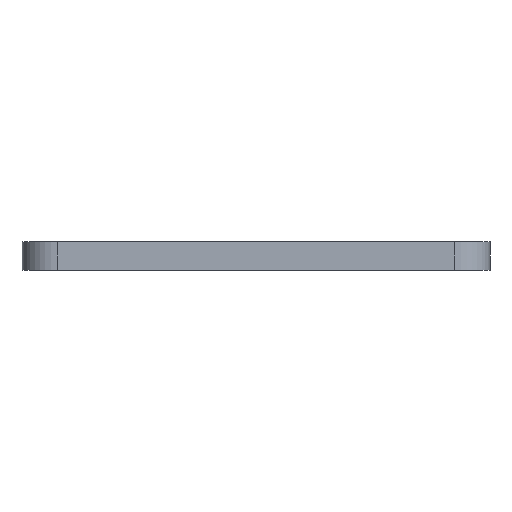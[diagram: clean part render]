
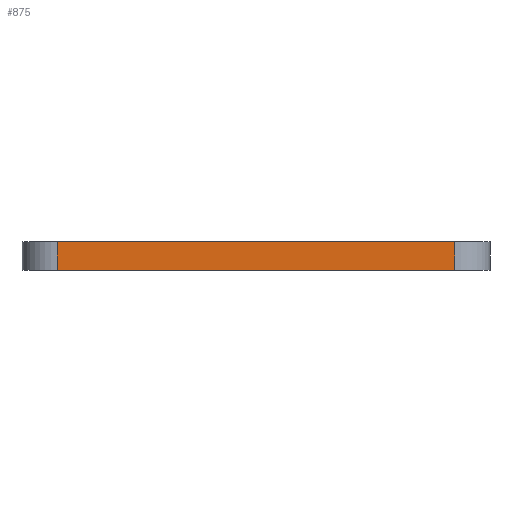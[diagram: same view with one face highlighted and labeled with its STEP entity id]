
A CAD part, left-side view. The second image highlights one B-rep face of the part: STEP entity #875.
In plain terms, the highlighted planar face has unit normal (-1, 0, 0).
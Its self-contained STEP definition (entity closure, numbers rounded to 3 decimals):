
#191=FACE_OUTER_BOUND('',#232,.T.);
#232=EDGE_LOOP('',(#744,#745,#746,#747));
#324=LINE('',#1446,#381);
#337=LINE('',#1485,#394);
#338=LINE('',#1487,#395);
#339=LINE('',#1488,#396);
#381=VECTOR('',#1206,10.);
#394=VECTOR('',#1245,10.);
#395=VECTOR('',#1248,10.);
#396=VECTOR('',#1249,10.);
#460=VERTEX_POINT('',#1443);
#461=VERTEX_POINT('',#1445);
#473=VERTEX_POINT('',#1481);
#474=VERTEX_POINT('',#1483);
#569=EDGE_CURVE('',#460,#461,#324,.T.);
#589=EDGE_CURVE('',#473,#474,#337,.T.);
#590=EDGE_CURVE('',#460,#473,#338,.T.);
#591=EDGE_CURVE('',#461,#474,#339,.T.);
#744=ORIENTED_EDGE('',*,*,#590,.T.);
#745=ORIENTED_EDGE('',*,*,#589,.T.);
#746=ORIENTED_EDGE('',*,*,#591,.F.);
#747=ORIENTED_EDGE('',*,*,#569,.F.);
#834=PLANE('',#990);
#875=ADVANCED_FACE('',(#191),#834,.T.);
#990=AXIS2_PLACEMENT_3D('',#1486,#1246,#1247);
#1206=DIRECTION('',(0.,0.,-1.));
#1245=DIRECTION('',(0.,0.,-1.));
#1246=DIRECTION('center_axis',(-1.,0.,0.));
#1247=DIRECTION('ref_axis',(0.,1.,0.));
#1248=DIRECTION('',(0.,1.,0.));
#1249=DIRECTION('',(0.,1.,0.));
#1443=CARTESIAN_POINT('',(201.309,7.35,0.));
#1445=CARTESIAN_POINT('',(201.309,7.35,-3.175));
#1446=CARTESIAN_POINT('',(201.309,7.35,0.));
#1481=CARTESIAN_POINT('',(201.309,52.35,0.));
#1483=CARTESIAN_POINT('',(201.309,52.35,-3.175));
#1485=CARTESIAN_POINT('',(201.309,52.35,0.));
#1486=CARTESIAN_POINT('Origin',(201.309,7.35,0.));
#1487=CARTESIAN_POINT('',(201.309,7.35,0.));
#1488=CARTESIAN_POINT('',(201.309,7.35,-3.175));
